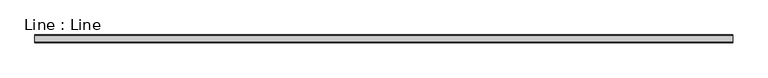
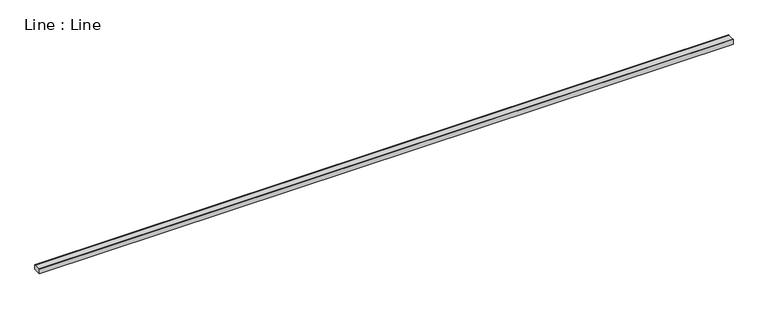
"""IFC4 building model written with IfcOpenShell, lengths in millimetres: light fixture geometry, Line : Line."""

from ifc_helpers import new_model, si_unit, frame, origin, place, context, project, spatial, polyline, outline, extrude, source, transform, mapped, element, save


def line_line_f28259de(model_context):
    return source(origin(), model_context, "Body", "SweptSolid", [
        extrude(outline(polyline([(-13.2699605, -0.6594598), (13.2699605, -0.6594598), (13.2699605, 0.4921885), (15.2699605, 0.4921885), (15.2699605, -18.9218892), (-15.2699605, -18.9218892), (-15.2699605, 0.4921885), (-13.2699605, 0.4921885), (-13.2699605, -0.6594598)])), frame((0.0, 0.0, 0.0), z_axis=(1.0, 0.0, 0.0), x_axis=(0.0, 1.0, 0.0)), (0.0, 0.0, 1.0), 2710.8564873),
    ])


if __name__ == "__main__":
    model = new_model("IFC4")
    model_context = context("Model", 3, world=origin())
    ifc_project = project(units=[si_unit("LENGTHUNIT", "METRE", prefix="MILLI")], contexts=[model_context])
    site = spatial("IfcSite", under=ifc_project)
    building = spatial("IfcBuilding", under=site)
    placement = place(None, origin())
    line_line_shape = line_line_f28259de(model_context)
    element("IfcLightFixture", 1, ObjectType="Line : Line", at=placement, inside=building, context=model_context, shape_type="MappedRepresentation", body=[
        mapped(line_line_shape, transform((0.0, 0.0, 0.0), x_axis=(1.0, 0.0, 0.0), y_axis=(0.0, 1.0, 0.0), z_axis=(0.0, 0.0, 1.0))),
    ])
    save(model, "model.ifc")
